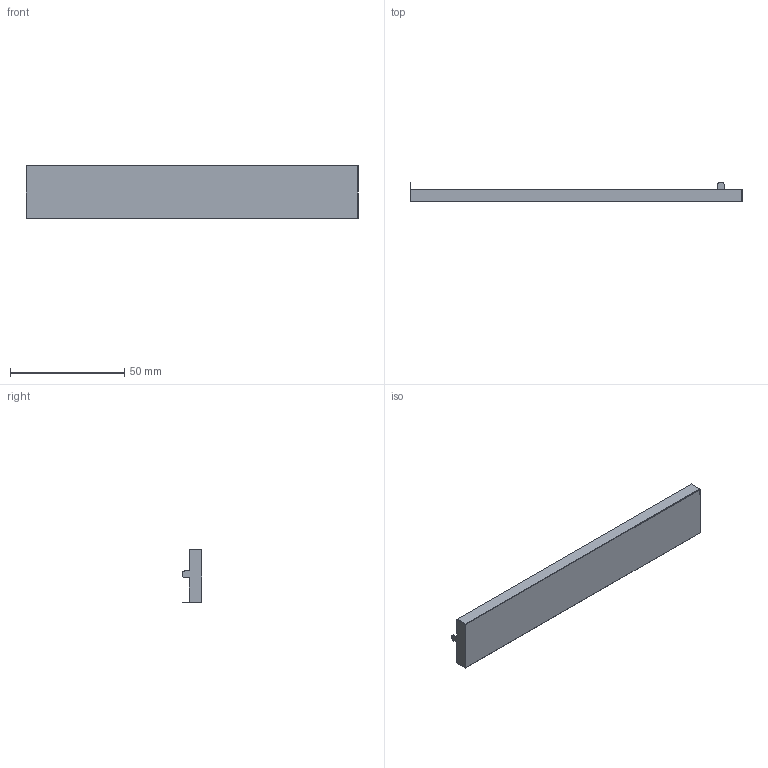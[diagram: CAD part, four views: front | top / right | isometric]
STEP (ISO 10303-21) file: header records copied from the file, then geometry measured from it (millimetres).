
FILE_DESCRIPTION (( 'STEP AP203' ), '1' );
FILE_NAME ('RF-080.STEP', '2024-01-31T08:26:58', ( '' ), ( '' ), 'SwSTEP 2.0', 'SolidWorks 2021', '' );
FILE_SCHEMA (( 'CONFIG_CONTROL_DESIGN' ));
Length unit declared in the file: millimetre
Products named in the file (1): RF-080
Bounding box: 145 x 8.5 x 23.5 mm (x, y, z)
Volume: 1037.3 mm3; surface area: 10451.6 mm2
Topology: 1 solids, 1 shells, 46 faces, 108 edges, 64 vertices
Faces by surface type: plane 30, cylinder 8, bspline 8
Entity records: 1433 total; most frequent: CARTESIAN_POINT 347, ORIENTED_EDGE 216, DIRECTION 186, EDGE_CURVE 108, VECTOR 92, LINE 92, VERTEX_POINT 64, AXIS2_PLACEMENT_3D 47
